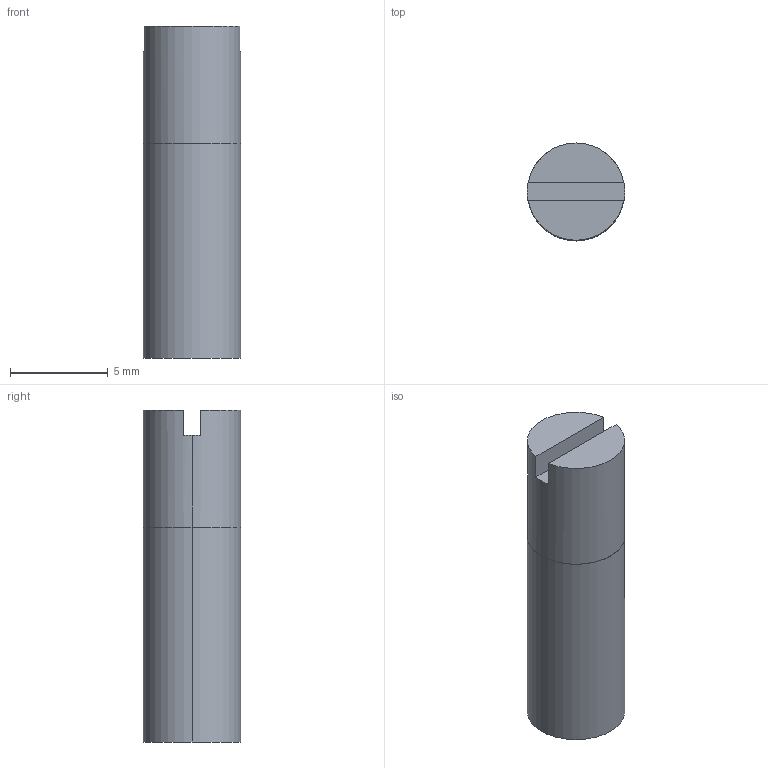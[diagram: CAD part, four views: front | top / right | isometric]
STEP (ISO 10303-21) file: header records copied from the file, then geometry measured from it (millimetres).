
FILE_DESCRIPTION (( 'STEP AP203' ), '1' );
FILE_NAME ('短導柱.step', '2026-06-05T03:32:56', ( '' ), ( '' ), 'SwSTEP 2.0', 'SolidWorks 2024', '' );
FILE_SCHEMA (( 'CONFIG_CONTROL_DESIGN' ));
Length unit declared in the file: millimetre
Products named in the file (1): 短導柱
Bounding box: 5 x 5 x 17 mm (x, y, z)
Volume: 327.1 mm3; surface area: 316.3 mm2
Topology: 1 solids, 1 shells, 11 faces, 24 edges, 16 vertices
Faces by surface type: plane 7, cylinder 4
Entity records: 387 total; most frequent: DIRECTION 60, CARTESIAN_POINT 52, ORIENTED_EDGE 48, EDGE_CURVE 24, AXIS2_PLACEMENT_3D 24, VERTEX_POINT 16, VECTOR 12, LINE 12
